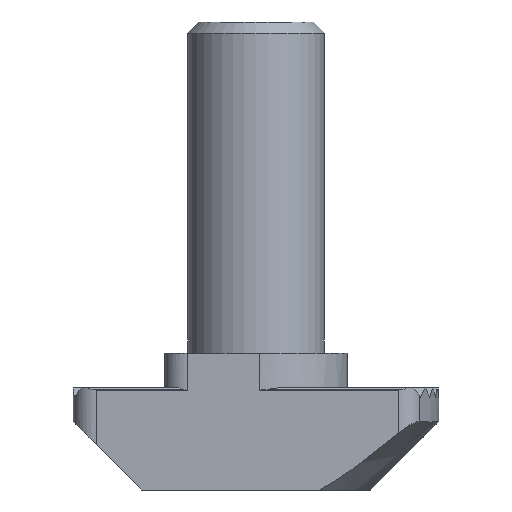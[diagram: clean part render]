
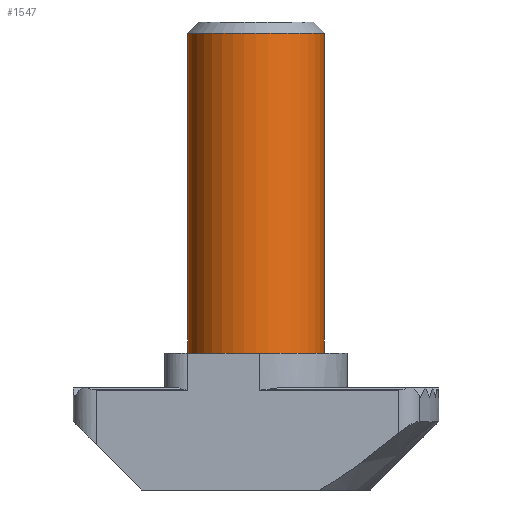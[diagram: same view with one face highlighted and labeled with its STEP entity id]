
A CAD part, front view. The second image highlights one B-rep face of the part: STEP entity #1547.
In plain terms, the highlighted cylindrical face has radius 3 mm (diameter 6 mm), a partial arc.
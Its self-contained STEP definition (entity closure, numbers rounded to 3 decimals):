
#320 = DIRECTION ( 'NONE',  ( -1., 0., 0. ) ) ;
#328 = DIRECTION ( 'NONE',  ( 0., 0., -1. ) ) ;
#409 = CARTESIAN_POINT ( 'NONE',  ( 0., 0., -0.769 ) ) ;
#743 = ORIENTED_EDGE ( 'NONE', *, *, #1792, .T. ) ;
#744 = ORIENTED_EDGE ( 'NONE', *, *, #1807, .T. ) ;
#745 = ORIENTED_EDGE ( 'NONE', *, *, #1796, .T. ) ;
#746 = ORIENTED_EDGE ( 'NONE', *, *, #1811, .F. ) ;
#823 = VERTEX_POINT ( 'NONE', #2201 ) ;
#825 = VERTEX_POINT ( 'NONE', #2208 ) ;
#827 = VERTEX_POINT ( 'NONE', #2197 ) ;
#828 = VERTEX_POINT ( 'NONE', #2211 ) ;
#861 = EDGE_LOOP ( 'NONE', ( #746, #743, #744, #745 ) ) ;
#1057 = FACE_OUTER_BOUND ( 'NONE', #861, .T. ) ;
#1067 = CYLINDRICAL_SURFACE ( 'NONE', #1485, 3. ) ;
#1429 = CIRCLE ( 'NONE', #2145, 3. ) ;
#1438 = CIRCLE ( 'NONE', #2146, 3. ) ;
#1454 = LINE ( 'NONE', #2458, #1457 ) ;
#1457 = VECTOR ( 'NONE', #2464, 1000. ) ;
#1460 = LINE ( 'NONE', #2439, #1463 ) ;
#1463 = VECTOR ( 'NONE', #2438, 1000. ) ;
#1485 = AXIS2_PLACEMENT_3D ( 'NONE', #409, #328, #320 ) ;
#1547 = ADVANCED_FACE ( 'NONE', ( #1057 ), #1067, .T. ) ;
#1792 = EDGE_CURVE ( 'NONE', #823, #827, #1429, .T. ) ;
#1796 = EDGE_CURVE ( 'NONE', #828, #825, #1438, .T. ) ;
#1807 = EDGE_CURVE ( 'NONE', #827, #828, #1454, .T. ) ;
#1811 = EDGE_CURVE ( 'NONE', #823, #825, #1460, .T. ) ;
#2145 = AXIS2_PLACEMENT_3D ( 'NONE', #2506, #2504, #2503 ) ;
#2146 = AXIS2_PLACEMENT_3D ( 'NONE', #2495, #2493, #2492 ) ;
#2197 = CARTESIAN_POINT ( 'NONE',  ( -3., 0., 20. ) ) ;
#2201 = CARTESIAN_POINT ( 'NONE',  ( 3., 0., 20. ) ) ;
#2208 = CARTESIAN_POINT ( 'NONE',  ( 3., 0., 6. ) ) ;
#2211 = CARTESIAN_POINT ( 'NONE',  ( -3., 0., 6. ) ) ;
#2438 = DIRECTION ( 'NONE',  ( 0., 0., -1. ) ) ;
#2439 = CARTESIAN_POINT ( 'NONE',  ( 3., 0., -0.769 ) ) ;
#2458 = CARTESIAN_POINT ( 'NONE',  ( -3., 0., -0.769 ) ) ;
#2464 = DIRECTION ( 'NONE',  ( 0., 0., -1. ) ) ;
#2492 = DIRECTION ( 'NONE',  ( -1., 0., 0. ) ) ;
#2493 = DIRECTION ( 'NONE',  ( 0., 0., 1. ) ) ;
#2495 = CARTESIAN_POINT ( 'NONE',  ( 0., 0., 6. ) ) ;
#2503 = DIRECTION ( 'NONE',  ( -1., 0., 0. ) ) ;
#2504 = DIRECTION ( 'NONE',  ( 0., 0., -1. ) ) ;
#2506 = CARTESIAN_POINT ( 'NONE',  ( 0., 0., 20. ) ) ;
